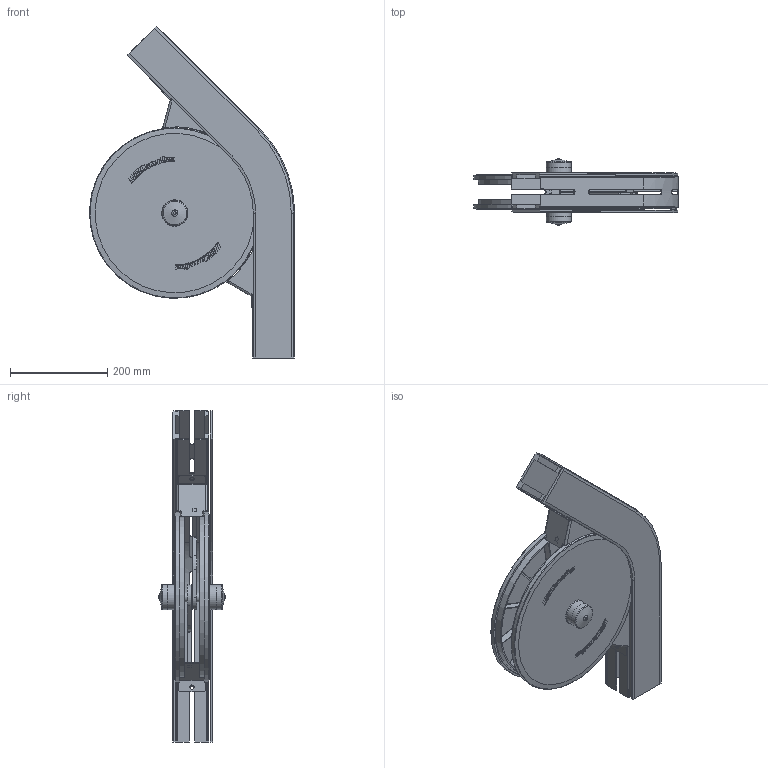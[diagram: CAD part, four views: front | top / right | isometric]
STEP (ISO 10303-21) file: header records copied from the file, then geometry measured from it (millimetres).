
FILE_DESCRIPTION(/* description */ ('WHEELCURVE 45° SERIE 530'),/* implementation_level */ '2;1');
FILE_NAME(/* name */ '530-5055-45.stp',/* time_stamp */ '2022-09-21T15:23:13+02:00',/* author */ ('ML'),/* organization */ ('CARRYLINE'),/* preprocessor_version */ 'ST-DEVELOPER v19.2',/* originating_system */ 'Autodesk Inventor 2023',/* authorisation */ '');
FILE_SCHEMA (('AUTOMOTIVE_DESIGN { 1 0 10303 214 3 1 1 }'));
Length unit declared in the file: millimetre
Products named in the file (8): 530-5055-45; 530-5375+830-2000-01; 830-5060_1; 830-5062; 14261_2; 14261_11; 14261_12; 14261_20
Assembly tree (10 placements, depth 2):
  530-5055-45
    530-5375+830-2000-01
    830-5060_1  x2
    830-5062  x2
    14261_2
    14261_11
    14261_12
    14261_20  x2
Bounding box: 420.47 x 136.8 x 681.46 mm (x, y, z)
Volume: 2641165.8 mm3; surface area: 1253670.6 mm2
Topology: 11 solids, 11 shells, 1390 faces, 3495 edges, 2196 vertices
Faces by surface type: plane 801, bspline 262, cylinder 195, cone 66, torus 62, sphere 4
Full cylindrical faces by diameter (mm): 4.917 x8, 6.2 x8, 8.5 x2, 16.2 x2, 17 x4, 20 x4, 30 x3, 40 x4, 47.6 x2, 51.3 x2, 350 x2
Entity records: 31717 total; most frequent: CARTESIAN_POINT 11822, ORIENTED_EDGE 4182, DIRECTION 3822, EDGE_CURVE 2091, VERTEX_POINT 1340, LINE 1316, VECTOR 1316, AXIS2_PLACEMENT_3D 1253
